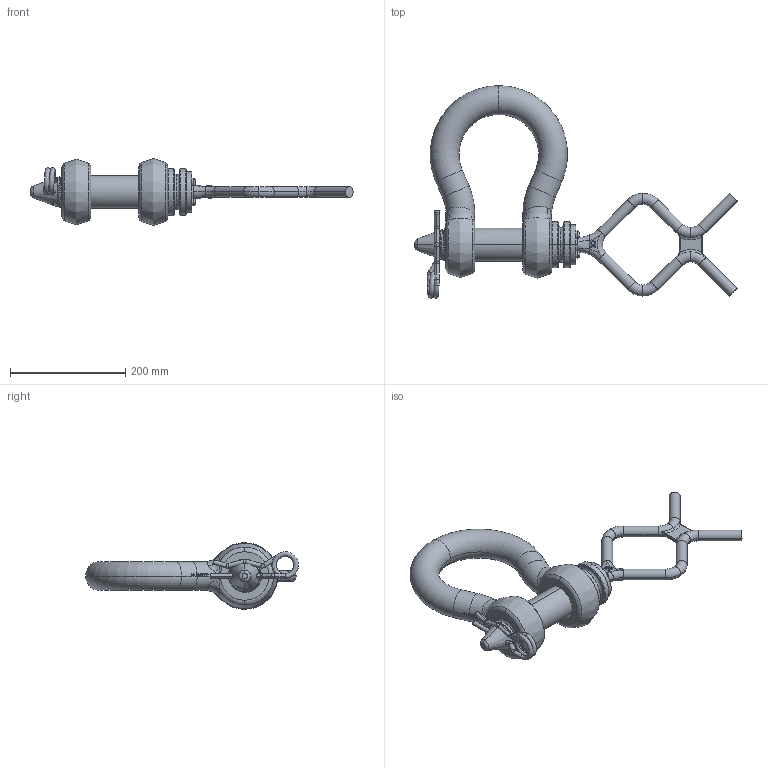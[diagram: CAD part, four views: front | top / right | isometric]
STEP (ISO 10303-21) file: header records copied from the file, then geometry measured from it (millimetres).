
FILE_DESCRIPTION(('STEP AP203'),'1');
FILE_NAME('poghbb50rovrltf.stp','2026-04-27T06:38:27',('TraceParts'),('TraceParts S.A.S.'),'Spatial InterOp 3D',' ',' ');
FILE_SCHEMA(('CONFIG_CONTROL_DESIGN'));
Length unit declared in the file: millimetre
Products named in the file (1): 1
Bounding box: 558.25 x 368.5 x 115.73 mm (x, y, z)
Volume: 2579391.7 mm3; surface area: 289414.4 mm2
Topology: 12 solids, 12 shells, 1010 faces, 2663 edges, 1698 vertices
Faces by surface type: plane 354, bspline 294, cylinder 194, torus 108, cone 60
Entity records: 61782 total; most frequent: CARTESIAN_POINT 38572, ORIENTED_EDGE 5262, DIRECTION 4233, EDGE_CURVE 2631, VERTEX_POINT 1698, AXIS2_PLACEMENT_3D 1587, EDGE_LOOP 1089, LINE 1059
